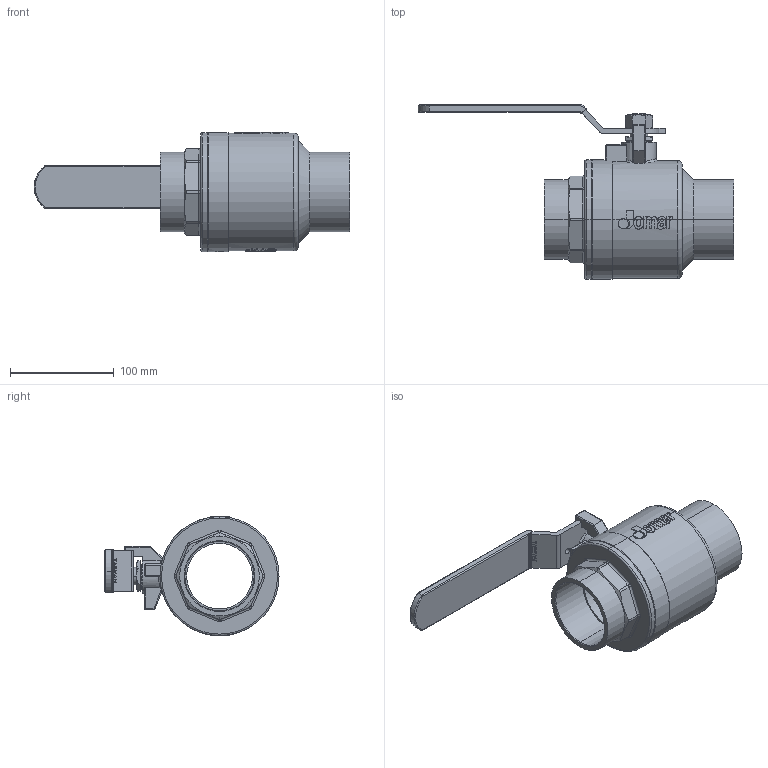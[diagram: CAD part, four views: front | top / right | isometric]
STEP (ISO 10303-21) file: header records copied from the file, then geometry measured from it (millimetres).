
FILE_DESCRIPTION (( 'STEP AP203' ), '1' );
FILE_NAME ('ABL719-無掛鎖-2.5''''JOMAR-CxC閥體組合-端面無插溝-2025.STEP', '2025-06-25T07:13:15', ( '' ), ( '' ), 'SwSTEP 2.0', 'SolidWorks 2018', '' );
FILE_SCHEMA (( 'CONFIG_CONTROL_DESIGN' ));
Length unit declared in the file: millimetre
Products named in the file (13): CBL270; EBL209A; DN65 & DN80-CBL719-無掛鎖組合-白色膠套 S200CSSG; BBL719A-2.5''''JOMAR球閥-CxC帽蓋-無鉛-端面無插溝; BBL719-2.5''''JOMAR球閥體-CxC-無鉛-端面無插溝; EBL309; RBL270; GBL210; ABL719-無掛鎖-2.5''''JOMAR-CxC閥體組合-端面無插溝-2025; EBL209B; TBL270; DN65 & DN80-CBL270白色膠套-S-200CSSG; NBL270
Assembly tree (13 placements, depth 3):
  ABL719-無掛鎖-2.5''''JOMAR-CxC閥體組合-端面無插溝-2025
    BBL719-2.5''''JOMAR球閥體-CxC-無鉛-端面無插溝
    RBL270
    EBL209A
    EBL209B
    GBL210
    BBL719A-2.5''''JOMAR球閥-CxC帽蓋-無鉛-端面無插溝
    DN65 & DN80-CBL719-無掛鎖組合-白色膠套 S200CSSG
      CBL270
      DN65 & DN80-CBL270白色膠套-S-200CSSG
    NBL270
    EBL309  x2
    TBL270
Bounding box: 304.7 x 168.11 x 115.4 mm (x, y, z)
Volume: 757898 mm3; surface area: 272746.9 mm2
Topology: 12 solids, 12 shells, 2270 faces, 6068 edges, 3997 vertices
Faces by surface type: plane 1191, bspline 674, cylinder 285, cone 68, torus 40, sphere 12
Entity records: 121799 total; most frequent: CARTESIAN_POINT 69350, ORIENTED_EDGE 12064, DIRECTION 7979, EDGE_CURVE 6032, VERTEX_POINT 3979, VECTOR 3717, LINE 3717, EDGE_LOOP 2463
